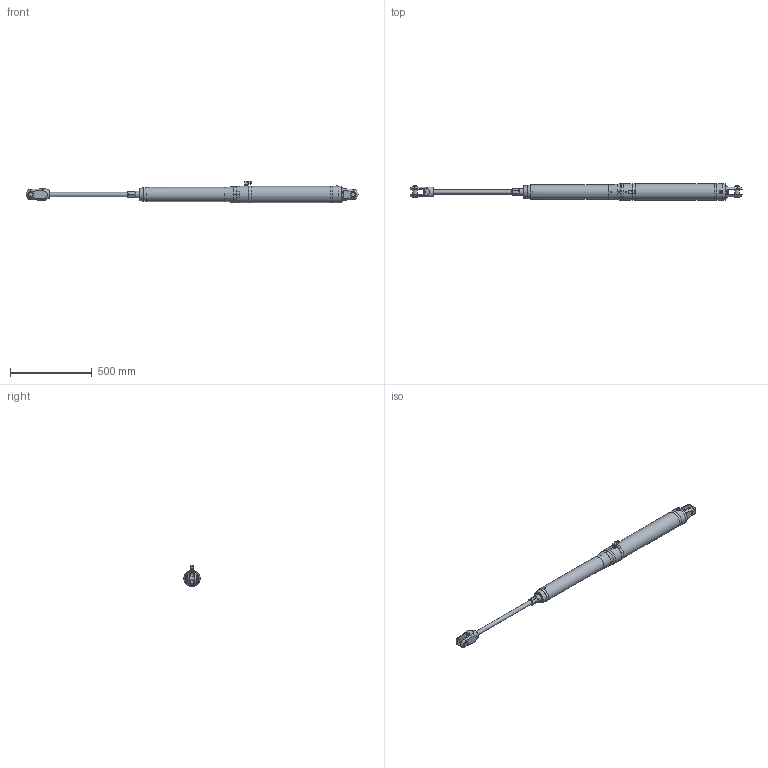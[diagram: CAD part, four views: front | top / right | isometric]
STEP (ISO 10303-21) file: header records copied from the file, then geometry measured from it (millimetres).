
FILE_DESCRIPTION(/* description */ (''),/* implementation_level */ '2;1');
FILE_NAME(/* name */ 'Q:\AA BRAND HYDRAULICS\HYDRAULICS FAMILY DIRECTORY\HYDRAULICS\CYLINDERS\MECHANICAL LOCK RAMS\ALUMINIUM - STAINLESS SINGLE ACTING (-0012 To -0150)\MSA-0040-S0475-NP-71\MSA-0040-S0475-NP-71 (Open).stp',/* time_stamp */ '2018-04-25T16:20:21+01:00',/* author */ ('Lorena'),/* organization */ (''),/* preprocessor_version */ 'ST-DEVELOPER v17',/* originating_system */ 'Autodesk Inventor 2018',/* authorisation */ '');
FILE_SCHEMA (('AUTOMOTIVE_DESIGN { 1 0 10303 214 3 1 1 }'));
Length unit declared in the file: millimetre
Products named in the file (1): MSA-0040-S0475-NP-71 (Open)
Bounding box: 2032.19 x 102.2 x 133 mm (x, y, z)
Volume: 9487676.9 mm3; surface area: 508484.7 mm2
Topology: 2 solids, 6 shells, 502 faces, 1296 edges, 843 vertices
Faces by surface type: plane 283, cone 124, cylinder 81, torus 6, sphere 4, bspline 4
Full cylindrical faces by diameter (mm): 4 x1, 4.134 x1, 4.2 x2, 5 x7, 5.1 x1, 5.9 x1, 7 x1, 9 x1, 10 x2, 11.157 x1, 11.5 x1, 11.8 x1, 12 x1, 12.157 x1, 12.77 x1, 13 x1, 13.157 x2, 14.5 x2, 16 x2, 18.3 x3, 22 x1, 25.4 x2, 25.5 x1, 31.75 x2, 40 x2, 41 x2, 44 x1, 86 x1, 99.2 x1, 102.2 x4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
Entity records: 16739 total; most frequent: CARTESIAN_POINT 4113, ORIENTED_EDGE 2574, DIRECTION 2525, EDGE_CURVE 1287, AXIS2_PLACEMENT_3D 973, VERTEX_POINT 843, LINE 579, VECTOR 579
